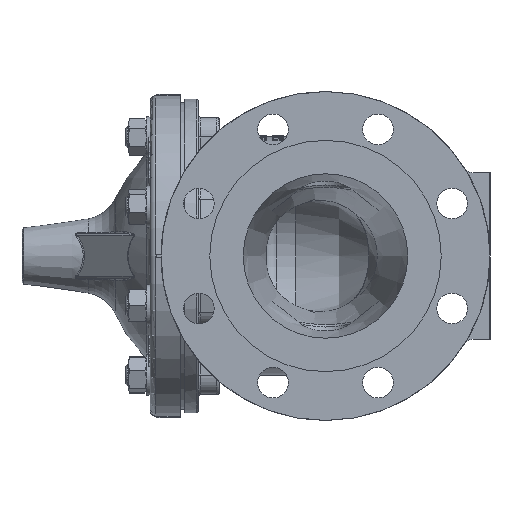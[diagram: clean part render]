
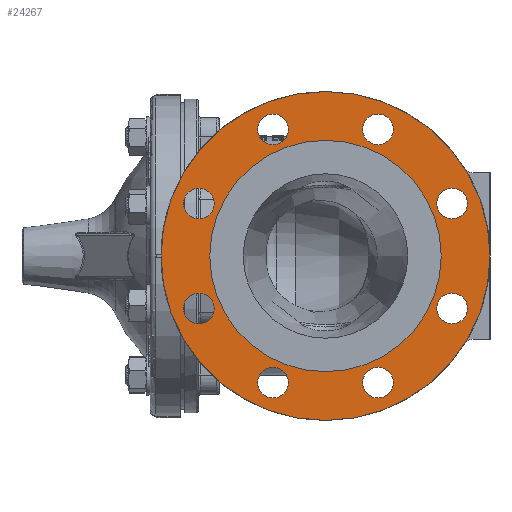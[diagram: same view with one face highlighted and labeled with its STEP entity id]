
A CAD part, left-side view. The second image highlights one B-rep face of the part: STEP entity #24267.
In plain terms, the highlighted planar face has unit normal (-1, 0, 0).
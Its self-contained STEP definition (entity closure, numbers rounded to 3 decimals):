
#4977=FACE_BOUND('',#6703,.T.);
#4978=FACE_BOUND('',#6704,.T.);
#4979=FACE_BOUND('',#6705,.T.);
#4980=FACE_BOUND('',#6706,.T.);
#4981=FACE_BOUND('',#6707,.T.);
#4982=FACE_BOUND('',#6708,.T.);
#4983=FACE_BOUND('',#6709,.T.);
#4984=FACE_BOUND('',#6710,.T.);
#4985=FACE_BOUND('',#6711,.T.);
#5156=FACE_OUTER_BOUND('',#6702,.T.);
#6702=EDGE_LOOP('',(#16286));
#6703=EDGE_LOOP('',(#16287));
#6704=EDGE_LOOP('',(#16288));
#6705=EDGE_LOOP('',(#16289));
#6706=EDGE_LOOP('',(#16290));
#6707=EDGE_LOOP('',(#16291));
#6708=EDGE_LOOP('',(#16292));
#6709=EDGE_LOOP('',(#16293));
#6710=EDGE_LOOP('',(#16294));
#6711=EDGE_LOOP('',(#16295));
#8275=CIRCLE('',#25818,14.);
#8277=CIRCLE('',#25821,14.);
#8279=CIRCLE('',#25824,14.);
#8281=CIRCLE('',#25827,14.);
#8283=CIRCLE('',#25830,14.);
#8285=CIRCLE('',#25833,14.);
#8287=CIRCLE('',#25836,14.);
#8289=CIRCLE('',#25839,14.);
#8346=CIRCLE('',#25921,150.);
#8350=CIRCLE('',#25928,105.5);
#9583=VERTEX_POINT('',#36182);
#9585=VERTEX_POINT('',#36188);
#9587=VERTEX_POINT('',#36194);
#9589=VERTEX_POINT('',#36200);
#9591=VERTEX_POINT('',#36206);
#9593=VERTEX_POINT('',#36212);
#9595=VERTEX_POINT('',#36218);
#9597=VERTEX_POINT('',#36224);
#9676=VERTEX_POINT('',#36773);
#9682=VERTEX_POINT('',#36792);
#12084=EDGE_CURVE('',#9583,#9583,#8275,.T.);
#12087=EDGE_CURVE('',#9585,#9585,#8277,.T.);
#12090=EDGE_CURVE('',#9587,#9587,#8279,.T.);
#12093=EDGE_CURVE('',#9589,#9589,#8281,.T.);
#12096=EDGE_CURVE('',#9591,#9591,#8283,.T.);
#12099=EDGE_CURVE('',#9593,#9593,#8285,.T.);
#12102=EDGE_CURVE('',#9595,#9595,#8287,.T.);
#12105=EDGE_CURVE('',#9597,#9597,#8289,.T.);
#12217=EDGE_CURVE('',#9676,#9676,#8346,.T.);
#12226=EDGE_CURVE('',#9682,#9682,#8350,.T.);
#16286=ORIENTED_EDGE('',*,*,#12217,.F.);
#16287=ORIENTED_EDGE('',*,*,#12084,.T.);
#16288=ORIENTED_EDGE('',*,*,#12087,.T.);
#16289=ORIENTED_EDGE('',*,*,#12090,.T.);
#16290=ORIENTED_EDGE('',*,*,#12093,.T.);
#16291=ORIENTED_EDGE('',*,*,#12096,.T.);
#16292=ORIENTED_EDGE('',*,*,#12099,.T.);
#16293=ORIENTED_EDGE('',*,*,#12102,.T.);
#16294=ORIENTED_EDGE('',*,*,#12105,.T.);
#16295=ORIENTED_EDGE('',*,*,#12226,.F.);
#23575=PLANE('',#25930);
#24267=ADVANCED_FACE('',(#5156,#4977,#4978,#4979,#4980,#4981,#4982,#4983,
#4984,#4985),#23575,.F.);
#25818=AXIS2_PLACEMENT_3D('',#36183,#28364,#28365);
#25821=AXIS2_PLACEMENT_3D('',#36189,#28371,#28372);
#25824=AXIS2_PLACEMENT_3D('',#36195,#28378,#28379);
#25827=AXIS2_PLACEMENT_3D('',#36201,#28385,#28386);
#25830=AXIS2_PLACEMENT_3D('',#36207,#28392,#28393);
#25833=AXIS2_PLACEMENT_3D('',#36213,#28399,#28400);
#25836=AXIS2_PLACEMENT_3D('',#36219,#28406,#28407);
#25839=AXIS2_PLACEMENT_3D('',#36225,#28413,#28414);
#25921=AXIS2_PLACEMENT_3D('',#36775,#28609,#28610);
#25928=AXIS2_PLACEMENT_3D('',#36793,#28628,#28629);
#25930=AXIS2_PLACEMENT_3D('',#36797,#28633,#28634);
#28364=DIRECTION('center_axis',(1.,0.,0.));
#28365=DIRECTION('ref_axis',(0.,-0.707,0.707));
#28371=DIRECTION('center_axis',(1.,0.,0.));
#28372=DIRECTION('ref_axis',(0.,-1.,0.));
#28378=DIRECTION('center_axis',(1.,0.,0.));
#28379=DIRECTION('ref_axis',(0.,-0.707,-0.707));
#28385=DIRECTION('center_axis',(1.,0.,0.));
#28386=DIRECTION('ref_axis',(0.,0.,-1.));
#28392=DIRECTION('center_axis',(1.,0.,0.));
#28393=DIRECTION('ref_axis',(0.,0.707,-0.707));
#28399=DIRECTION('center_axis',(1.,0.,0.));
#28400=DIRECTION('ref_axis',(0.,1.,0.));
#28406=DIRECTION('center_axis',(1.,0.,0.));
#28407=DIRECTION('ref_axis',(0.,0.707,0.707));
#28413=DIRECTION('center_axis',(1.,0.,0.));
#28414=DIRECTION('ref_axis',(0.,0.,
1.));
#28609=DIRECTION('center_axis',(1.,0.,0.));
#28610=DIRECTION('ref_axis',(0.,0.,
-1.));
#28628=DIRECTION('center_axis',(-1.,0.,0.));
#28629=DIRECTION('ref_axis',(0.,0.,
-1.));
#28633=DIRECTION('center_axis',(1.,0.,0.));
#28634=DIRECTION('ref_axis',(0.,0.,
-1.));
#36182=CARTESIAN_POINT('',(-237.,125.364,-57.735));
#36183=CARTESIAN_POINT('Origin',(-237.,115.465,-47.835));
#36188=CARTESIAN_POINT('',(-237.,129.465,47.835));
#36189=CARTESIAN_POINT('Origin',(-237.,115.465,47.835));
#36194=CARTESIAN_POINT('',(-237.,57.715,125.384));
#36195=CARTESIAN_POINT('Origin',(-237.,47.815,115.485));
#36200=CARTESIAN_POINT('',(-237.,-47.855,129.485));
#36201=CARTESIAN_POINT('Origin',(-237.,-47.855,115.485));
#36206=CARTESIAN_POINT('',(-237.,-125.404,57.735));
#36207=CARTESIAN_POINT('Origin',(-237.,-115.505,47.835));
#36212=CARTESIAN_POINT('',(-237.,-129.505,-47.835));
#36213=CARTESIAN_POINT('Origin',(-237.,-115.505,-47.835));
#36218=CARTESIAN_POINT('',(-237.,-57.755,-125.384));
#36219=CARTESIAN_POINT('Origin',(-237.,-47.855,-115.485));
#36224=CARTESIAN_POINT('',(-237.,47.815,-129.485));
#36225=CARTESIAN_POINT('Origin',(-237.,47.815,-115.485));
#36773=CARTESIAN_POINT('',(-237.,-0.02,150.));
#36775=CARTESIAN_POINT('Origin',(-237.,-0.02,0.));
#36792=CARTESIAN_POINT('',(-237.,-0.02,105.5));
#36793=CARTESIAN_POINT('Origin',(-237.,-0.02,0.));
#36797=CARTESIAN_POINT('Origin',(-237.,-0.02,0.));
